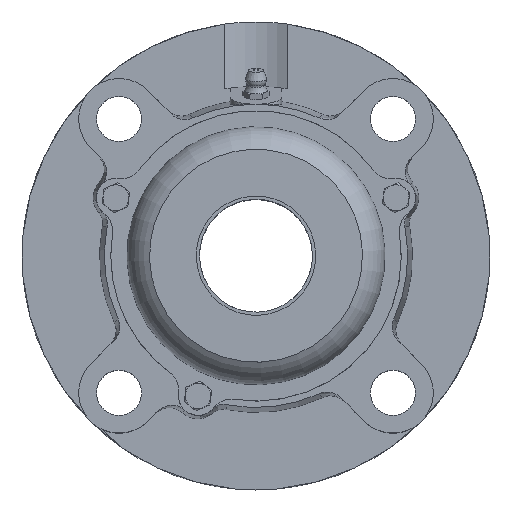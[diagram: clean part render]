
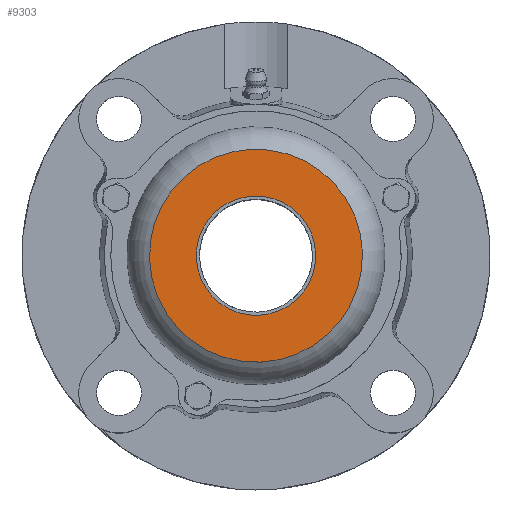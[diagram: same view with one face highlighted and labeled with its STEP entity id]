
A CAD part, top view. The second image highlights one B-rep face of the part: STEP entity #9303.
In plain terms, the highlighted planar face has unit normal (0, 0, 1).
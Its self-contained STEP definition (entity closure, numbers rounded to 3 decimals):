
#8568=CARTESIAN_POINT('',(18.5,0.,30.5));
#8569=VERTEX_POINT('',#8568);
#8570=CARTESIAN_POINT('',(0.0,0.0,30.5));
#8571=DIRECTION('',(0.0,0.0,-1.0));
#8572=DIRECTION('',(-1.0,0.0,0.0));
#8573=AXIS2_PLACEMENT_3D('',#8570,#8571,#8572);
#8574=CIRCLE('',#8573,18.5);
#8575=EDGE_CURVE('',#8569,#8569,#8574,.T.);
#9277=CARTESIAN_POINT('',(0.0,33.0,30.5));
#9278=VERTEX_POINT('',#9277);
#9279=CARTESIAN_POINT('',(0.0,0.,30.5));
#9280=DIRECTION('',(0.0,0.0,1.0));
#9281=DIRECTION('',(0.0,1.0,0.0));
#9282=AXIS2_PLACEMENT_3D('',#9279,#9280,#9281);
#9283=CIRCLE('',#9282,33.);
#9284=EDGE_CURVE('',#9278,#9278,#9283,.T.);
#9292=CARTESIAN_POINT('',(0.,47.886,30.5));
#9293=DIRECTION('',(0.0,0.0,1.0));
#9294=DIRECTION('',(1.0,0.0,0.0));
#9295=AXIS2_PLACEMENT_3D('',#9292,#9293,#9294);
#9296=PLANE('',#9295);
#9297=ORIENTED_EDGE('',*,*,#9284,.T.);
#9298=EDGE_LOOP('',(#9297));
#9299=FACE_OUTER_BOUND('',#9298,.T.);
#9300=ORIENTED_EDGE('',*,*,#8575,.T.);
#9301=EDGE_LOOP('',(#9300));
#9302=FACE_BOUND('',#9301,.T.);
#9303=ADVANCED_FACE('',(#9299,#9302),#9296,.T.);
